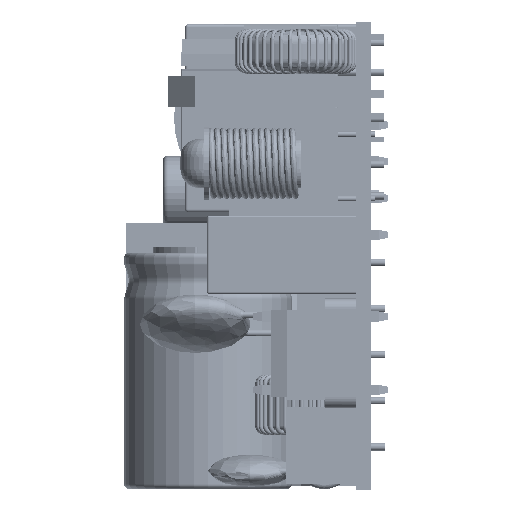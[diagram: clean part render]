
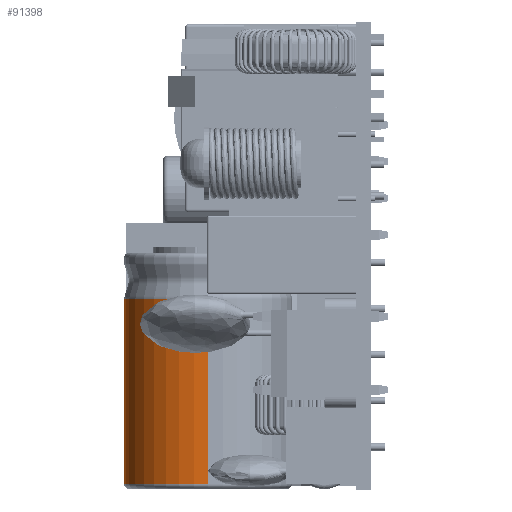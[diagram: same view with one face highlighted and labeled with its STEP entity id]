
A CAD part, left-side view. The second image highlights one B-rep face of the part: STEP entity #91398.
In plain terms, the highlighted cylindrical face has radius 9.1 mm (diameter 18.2 mm), a partial arc.
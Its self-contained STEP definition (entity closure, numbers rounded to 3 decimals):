
#7967 = DIRECTION ( 'NONE',  ( 0., 0., 1. ) ) ;
#9318 = CIRCLE ( 'NONE', #86621, 9.1 ) ;
#9907 = VERTEX_POINT ( 'NONE', #60340 ) ;
#17465 = DIRECTION ( 'NONE',  ( -1., 0., 0. ) ) ;
#18043 = CIRCLE ( 'NONE', #95351, 9.1 ) ;
#27555 = VERTEX_POINT ( 'NONE', #114485 ) ;
#29637 = ORIENTED_EDGE ( 'NONE', *, *, #52281, .T. ) ;
#30302 = CARTESIAN_POINT ( 'NONE',  ( 1.644, 9.747, -25.268 ) ) ;
#36702 = VERTEX_POINT ( 'NONE', #62212 ) ;
#37716 = EDGE_CURVE ( 'NONE', #9907, #27555, #18043, .T. ) ;
#39429 = CARTESIAN_POINT ( 'NONE',  ( 1.644, 9.747, -24.768 ) ) ;
#46344 = VERTEX_POINT ( 'NONE', #133833 ) ;
#48278 = VECTOR ( 'NONE', #132729, 1000. ) ;
#48340 = LINE ( 'NONE', #90528, #48278 ) ;
#51375 = ORIENTED_EDGE ( 'NONE', *, *, #37716, .T. ) ;
#52281 = EDGE_CURVE ( 'NONE', #36702, #46344, #9318, .T. ) ;
#60340 = CARTESIAN_POINT ( 'NONE',  ( 10.744, 9.747, -24.768 ) ) ;
#60544 = LINE ( 'NONE', #102705, #82562 ) ;
#62212 = CARTESIAN_POINT ( 'NONE',  ( -7.456, 9.747, -4.62 ) ) ;
#70041 = CARTESIAN_POINT ( 'NONE',  ( 1.644, 9.747, -4.62 ) ) ;
#72468 = DIRECTION ( 'NONE',  ( 0., 0., 1. ) ) ;
#75551 = ORIENTED_EDGE ( 'NONE', *, *, #97899, .F. ) ;
#81611 = DIRECTION ( 'NONE',  ( 0., 0., 1. ) ) ;
#82562 = VECTOR ( 'NONE', #7967, 1000. ) ;
#82876 = FACE_OUTER_BOUND ( 'NONE', #99742, .T. ) ;
#86621 = AXIS2_PLACEMENT_3D ( 'NONE', #70041, #112194, #17465 ) ;
#90528 = CARTESIAN_POINT ( 'NONE',  ( -7.456, 9.747, -25.268 ) ) ;
#91398 = ADVANCED_FACE ( 'NONE', ( #82876 ), #125057, .T. ) ;
#95351 = AXIS2_PLACEMENT_3D ( 'NONE', #39429, #81611, #123794 ) ;
#97899 = EDGE_CURVE ( 'NONE', #9907, #46344, #60544, .T. ) ;
#99742 = EDGE_LOOP ( 'NONE', ( #51375, #134410, #29637, #75551 ) ) ;
#102705 = CARTESIAN_POINT ( 'NONE',  ( 10.744, 9.747, -25.268 ) ) ;
#112194 = DIRECTION ( 'NONE',  ( 0., 0., -1. ) ) ;
#114183 = EDGE_CURVE ( 'NONE', #27555, #36702, #48340, .T. ) ;
#114485 = CARTESIAN_POINT ( 'NONE',  ( -7.456, 9.747, -24.768 ) ) ;
#114635 = DIRECTION ( 'NONE',  ( 1., 0., 0. ) ) ;
#121652 = AXIS2_PLACEMENT_3D ( 'NONE', #30302, #72468, #114635 ) ;
#123794 = DIRECTION ( 'NONE',  ( 1., 0., 0. ) ) ;
#125057 = CYLINDRICAL_SURFACE ( 'NONE', #121652, 9.1 ) ;
#132729 = DIRECTION ( 'NONE',  ( 0., 0., 1. ) ) ;
#133833 = CARTESIAN_POINT ( 'NONE',  ( 10.744, 9.747, -4.62 ) ) ;
#134410 = ORIENTED_EDGE ( 'NONE', *, *, #114183, .T. ) ;
